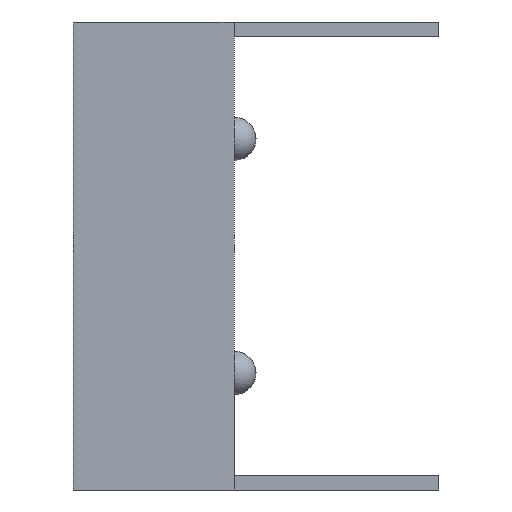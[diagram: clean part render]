
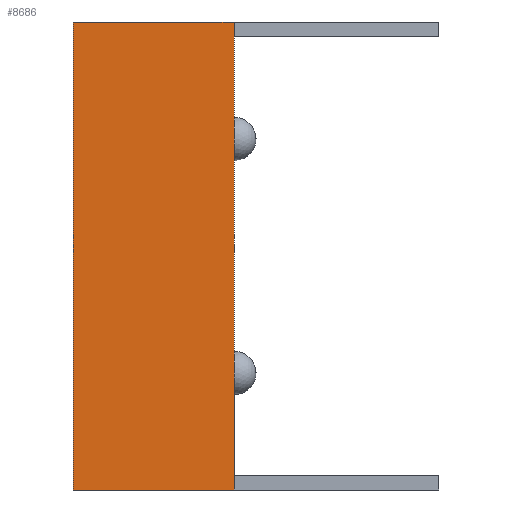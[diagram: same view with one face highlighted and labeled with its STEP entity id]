
A CAD part, left-side view. The second image highlights one B-rep face of the part: STEP entity #8686.
In plain terms, the highlighted planar face has unit normal (-1, 0, 0).
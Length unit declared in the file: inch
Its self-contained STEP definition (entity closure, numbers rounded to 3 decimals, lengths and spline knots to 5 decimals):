
#609=ORIENTED_EDGE('',*,*,#3125,.T.);
#610=ORIENTED_EDGE('',*,*,#3106,.F.);
#611=ORIENTED_EDGE('',*,*,#3126,.F.);
#612=ORIENTED_EDGE('',*,*,#2835,.T.);
#2835=EDGE_CURVE('',#4122,#4121,#4969,.T.);
#3106=EDGE_CURVE('',#4336,#4337,#5240,.T.);
#3125=EDGE_CURVE('',#4121,#4337,#5259,.T.);
#3126=EDGE_CURVE('',#4122,#4336,#5260,.T.);
#4121=VERTEX_POINT('',#12063);
#4122=VERTEX_POINT('',#12065);
#4336=VERTEX_POINT('',#12606);
#4337=VERTEX_POINT('',#12608);
#4969=LINE('',#12064,#6115);
#5240=LINE('',#12607,#6386);
#5259=LINE('',#12646,#6405);
#5260=LINE('',#12647,#6406);
#6115=VECTOR('',#9717,39.37008);
#6386=VECTOR('',#10102,39.37008);
#6405=VECTOR('',#10125,39.37008);
#6406=VECTOR('',#10126,39.37008);
#7318=EDGE_LOOP('',(#609,#610,#611,#612));
#7816=FACE_BOUND('',#7318,.T.);
#8314=PLANE('',#9171);
#8686=ADVANCED_FACE('',(#7816),#8314,.F.);
#9171=AXIS2_PLACEMENT_3D('',#12645,#10123,#10124);
#9717=DIRECTION('',(0.,-1.,0.));
#10102=DIRECTION('',(0.,-1.,0.));
#10123=DIRECTION('',(1.,0.,0.));
#10124=DIRECTION('',(0.,0.,-1.));
#10125=DIRECTION('',(0.,0.,1.));
#10126=DIRECTION('',(0.,0.,1.));
#12063=CARTESIAN_POINT('',(-0.7,0.,-0.32));
#12064=CARTESIAN_POINT('',(-0.7,0.11,-0.32));
#12065=CARTESIAN_POINT('',(-0.7,0.11,-0.32));
#12606=CARTESIAN_POINT('',(-0.7,0.11,0.));
#12607=CARTESIAN_POINT('',(-0.7,0.11,0.));
#12608=CARTESIAN_POINT('',(-0.7,0.,0.));
#12645=CARTESIAN_POINT('',(-0.7,0.11,-0.32));
#12646=CARTESIAN_POINT('',(-0.7,0.,-0.32));
#12647=CARTESIAN_POINT('',(-0.7,0.11,-0.32));
